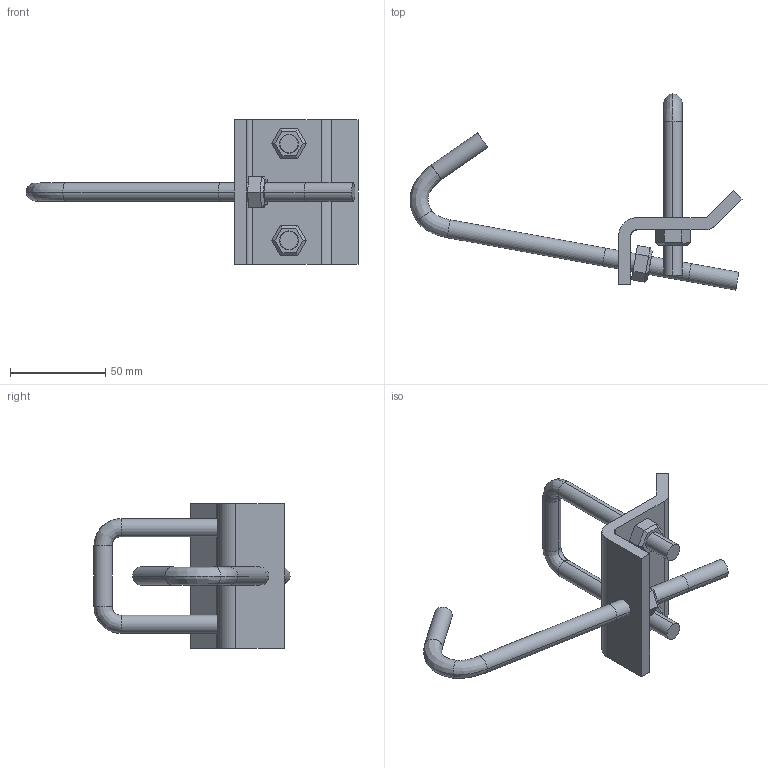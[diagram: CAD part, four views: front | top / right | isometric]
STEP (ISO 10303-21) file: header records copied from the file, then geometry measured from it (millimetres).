
FILE_DESCRIPTION(('TurboCAD Mac Pro'),'Build 980');
FILE_NAME('P2867.stp',' ',(''),(''),'ACIS Interop','IMSI','TurboCAD Mac Pro BY IMSI, INCORPORATED');
FILE_SCHEMA(('automotive_design'));
Length unit declared in the file: inch
Products named in the file (6): 1; 2; 3; 4; 5; 6
Bounding box: 174.58 x 103.13 x 76.2 mm (x, y, z)
Volume: 80595.7 mm3; surface area: 33168.7 mm2
Topology: 6 solids, 6 shells, 100 faces, 226 edges, 138 vertices
Faces by surface type: plane 56, bspline 24, cylinder 20
Entity records: 5660 total; most frequent: CARTESIAN_POINT 1602, ORIENTED_EDGE 452, DIRECTION 382, STYLED_ITEM 308, PRESENTATION_STYLE_ASSIGNMENT 308, COLOUR_RGB 308, EDGE_CURVE 226, CURVE_STYLE 202
